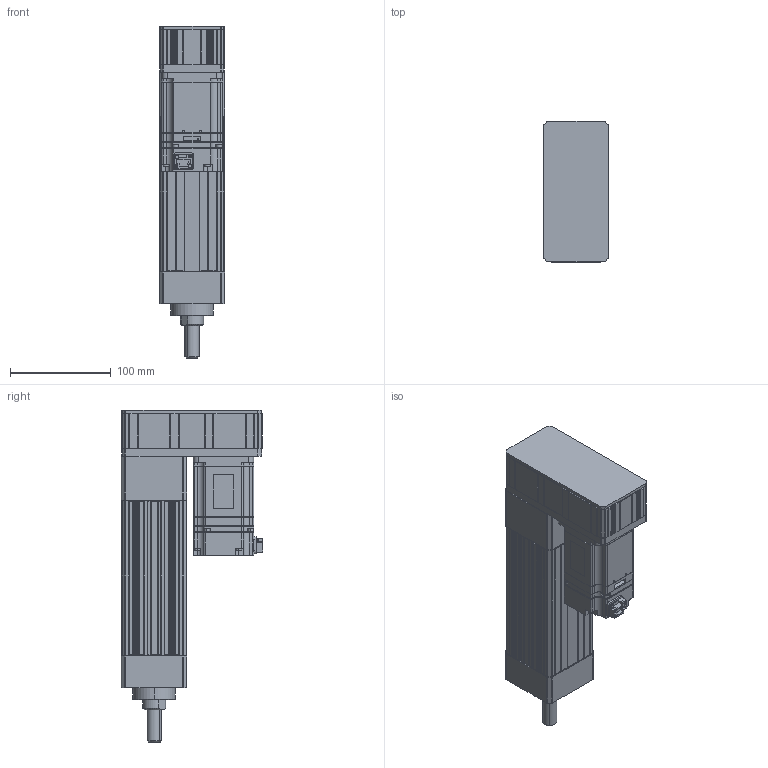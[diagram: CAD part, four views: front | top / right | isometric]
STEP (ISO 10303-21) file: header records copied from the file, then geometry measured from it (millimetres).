
FILE_DESCRIPTION (( 'STEP AP203' ), '1' );
FILE_NAME ('ANS065R-S050-05(10)(20)-W40-M.STEP', '2019-03-03T04:29:24', ( 'user' ), ( '' ), 'SwSTEP 2.0', 'SolidWorks 2013', '' );
FILE_SCHEMA (( 'CONFIG_CONTROL_DESIGN' ));
Length unit declared in the file: millimetre
Products named in the file (4): ANS065R P050 VER2; sgmjv_04a_a21; ANS065 ROD ST050-M; ANS065R-S050-05(10)(20)-W40-M
Assembly tree (3 placements, depth 2):
  ANS065R-S050-05(10)(20)-W40-M
    ANS065R P050 VER2
    sgmjv_04a_a21
    ANS065 ROD ST050-M
Bounding box: 65 x 140.3 x 330 mm (x, y, z)
Volume: 1115772.1 mm3; surface area: 239015.9 mm2
Topology: 3 solids, 7 shells, 1283 faces, 3465 edges, 2248 vertices
Faces by surface type: plane 817, cylinder 380, cone 86
Entity records: 40363 total; most frequent: CARTESIAN_POINT 7232, ORIENTED_EDGE 6898, DIRECTION 6761, EDGE_CURVE 3449, LINE 2567, VECTOR 2567, VERTEX_POINT 2248, AXIS2_PLACEMENT_3D 2097
